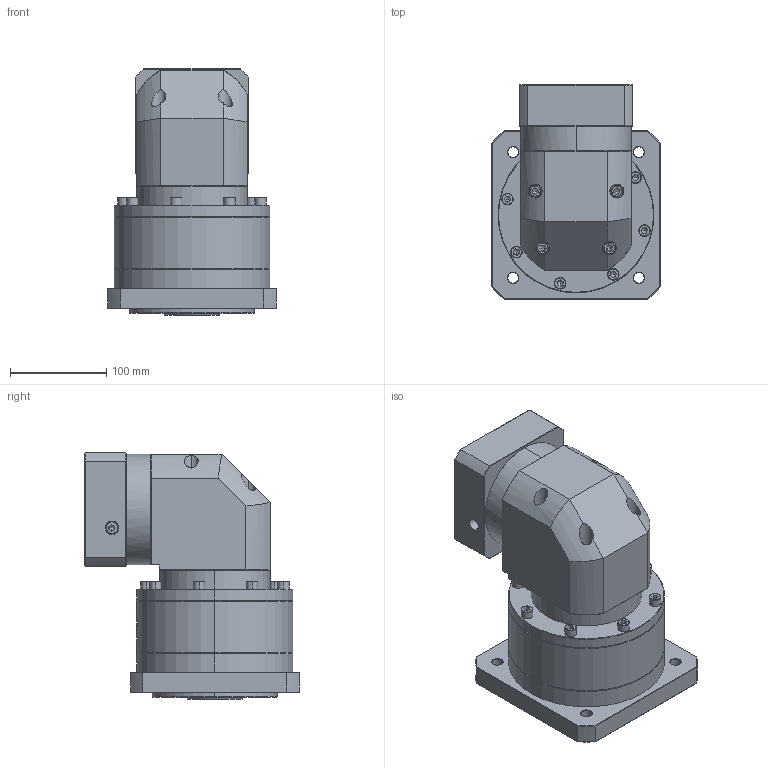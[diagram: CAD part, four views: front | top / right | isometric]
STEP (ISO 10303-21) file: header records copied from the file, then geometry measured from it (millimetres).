
FILE_DESCRIPTION (( 'STEP AP214' ), '1' );
FILE_NAME ('ZFR160A-K35-L2-P2-24-110-130-M8.step', '2023-09-03T09:44:13', ( '' ), ( '' ), 'SwSTEP 2.0', 'SolidWorks 2016', '' );
FILE_SCHEMA (( 'AUTOMOTIVE_DESIGN' ));
Length unit declared in the file: millimetre
Products named in the file (1): ZFR160A-K35-L2-P2-24-110-130-M8
Bounding box: 175 x 222.4 x 256.2 mm (x, y, z)
Volume: 4635965.5 mm3; surface area: 333257.4 mm2
Topology: 6 solids, 6 shells, 2413 faces, 6335 edges, 4048 vertices
Faces by surface type: plane 1139, cylinder 462, bspline 403, cone 365, torus 44
Entity records: 126546 total; most frequent: CARTESIAN_POINT 45612, ORIENTED_EDGE 12566, DIRECTION 9592, EDGE_CURVE 6283, VERTEX_POINT 4048, LINE 3382, VECTOR 3382, AXIS2_PLACEMENT_3D 3105
